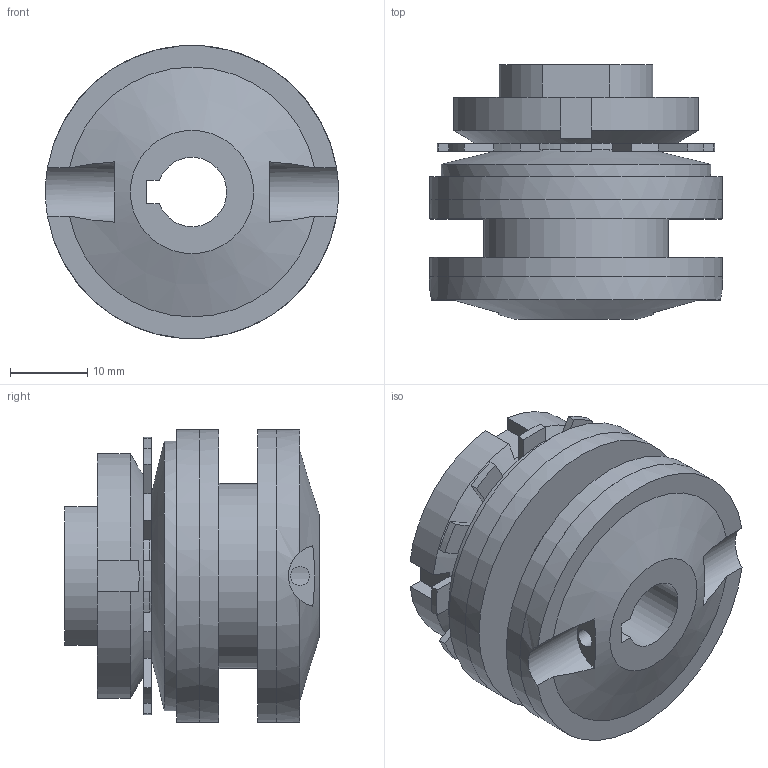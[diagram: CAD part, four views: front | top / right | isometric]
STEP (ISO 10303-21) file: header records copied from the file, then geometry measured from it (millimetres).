
FILE_DESCRIPTION( ( 'Unknown' ), '1' );
FILE_NAME( 'R:/utp/progettazione/3 D/DF/COMPLESSIVI/DF/00-38 DF GT.stp', 'Unknown', ( 'Unknown' ), ( 'Unknown' ), 'PSStep 10.1', 'Unknown', ' ' );
FILE_SCHEMA( ( 'AUTOMOTIVE_DESIGN { 1 0 10303 214 1 1 1 1 }' ) );
Length unit declared in the file: millimetre
Products named in the file (1): 1
Bounding box: 38 x 33 x 38 mm (x, y, z)
Volume: 21472 mm3; surface area: 11691.5 mm2
Topology: 1 solids, 1 shells, 161 faces, 415 edges, 259 vertices
Faces by surface type: plane 93, cylinder 64, cone 4
Full cylindrical faces by diameter (mm): 2.459 x1, 21.2 x1, 24 x2, 35 x1, 37.99 x2, 38 x2
Entity records: 6806 total; most frequent: CARTESIAN_POINT 966, DIRECTION 843, ORIENTED_EDGE 782, EDGE_CURVE 391, PRESENTATION_STYLE_ASSIGNMENT 323, COLOUR_RGB 323, AXIS2_PLACEMENT_3D 311, VERTEX_POINT 248
